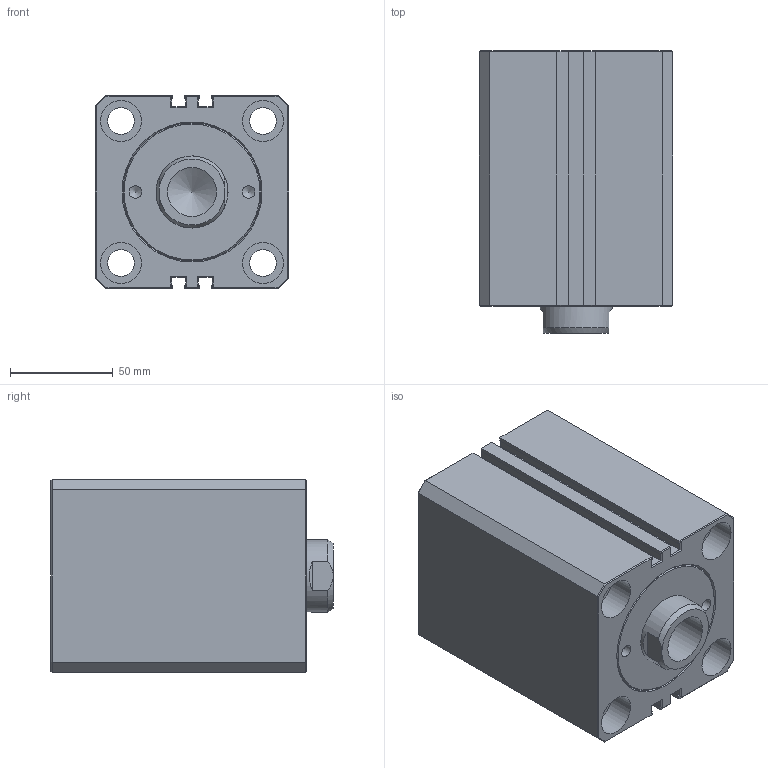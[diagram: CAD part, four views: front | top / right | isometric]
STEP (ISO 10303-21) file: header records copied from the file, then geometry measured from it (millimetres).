
FILE_DESCRIPTION(/* description */ ('Unknown'),/* implementation_level */ '2;1');
FILE_NAME(/* name */ 'HTM140-SD63X40N',/* time_stamp */ '2022-09-01T01:34:25+08:00',/* author */ ('Unknown'),/* organization */ ('Unknown'),/* preprocessor_version */ 'ST-DEVELOPER v16.7',/* originating_system */ 'DEX',/* authorisation */ $);
FILE_SCHEMA (('AUTOMOTIVE_DESIGN {1 0 10303 214 3 1 1}'));
Length unit declared in the file: millimetre
Products named in the file (1): HTM140-SD63X40N
Bounding box: 94 x 137 x 94 mm (x, y, z)
Volume: 979934.5 mm3; surface area: 95641.9 mm2
Topology: 1 solids, 1 shells, 187 faces, 428 edges, 257 vertices
Faces by surface type: plane 140, cylinder 19, cone 16, bspline 12
Full cylindrical faces by diameter (mm): 6 x1, 6.1 x2, 12.301 x2, 13 x4, 20 x8, 23.752 x1, 35 x1
Entity records: 6353 total; most frequent: CARTESIAN_POINT 1061, ORIENTED_EDGE 778, DIRECTION 768, EDGE_CURVE 389, LINE 294, VECTOR 294, VERTEX_POINT 248, FACE_BOUND 239
